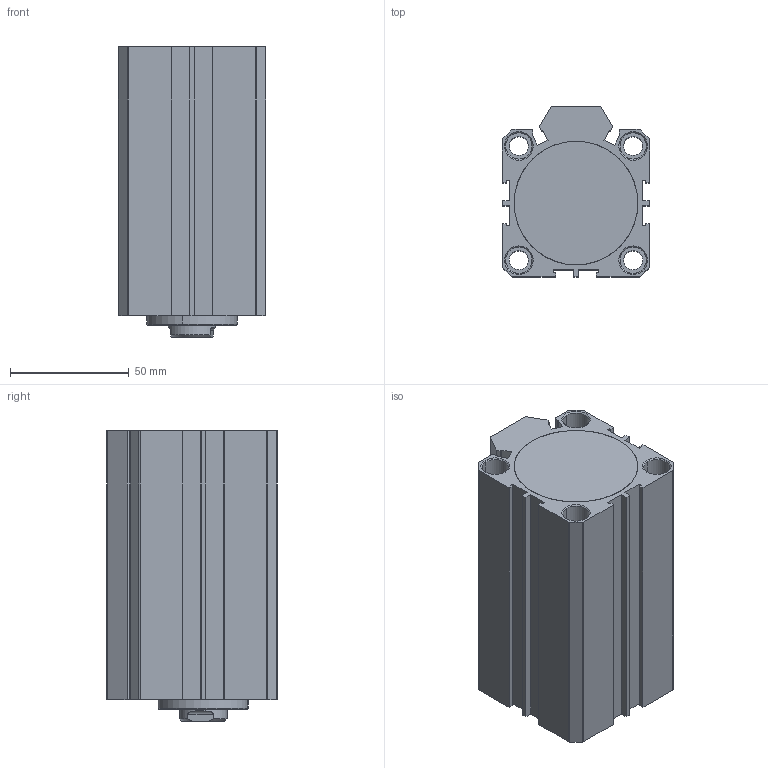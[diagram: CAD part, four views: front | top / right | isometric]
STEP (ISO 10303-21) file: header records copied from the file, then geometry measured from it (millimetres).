
FILE_DESCRIPTION (( 'STEP AP203' ), '1' );
FILE_NAME ('SDA-S-50X75CYLINDER.STEP', '2015-08-04T06:59:35', ( 'user' ), ( '' ), 'SwSTEP 2.0', 'SolidWorks 2013', '' );
FILE_SCHEMA (( 'CONFIG_CONTROL_DESIGN' ));
Length unit declared in the file: millimetre
Products named in the file (5): SDA-S 50X75 BORU; SDA-S 50X75 M尳 VE TOP; SDA-S 50 ARKA KAPAK; SDA-S 50 烰 KAPAK; SDA-S-50X75CYLINDER
Assembly tree (4 placements, depth 2):
  SDA-S-50X75CYLINDER
    SDA-S 50X75 BORU
    SDA-S 50X75 M尳 VE TOP
    SDA-S 50 ARKA KAPAK
    SDA-S 50 烰 KAPAK
Bounding box: 62 x 71.5 x 122 mm (x, y, z)
Volume: 285942.5 mm3; surface area: 99297.5 mm2
Topology: 4 solids, 6 shells, 253 faces, 637 edges, 416 vertices
Faces by surface type: cylinder 113, plane 104, cone 34, torus 2
Entity records: 8324 total; most frequent: CARTESIAN_POINT 1480, DIRECTION 1401, ORIENTED_EDGE 1274, EDGE_CURVE 637, AXIS2_PLACEMENT_3D 533, VERTEX_POINT 416, LINE 335, VECTOR 335
